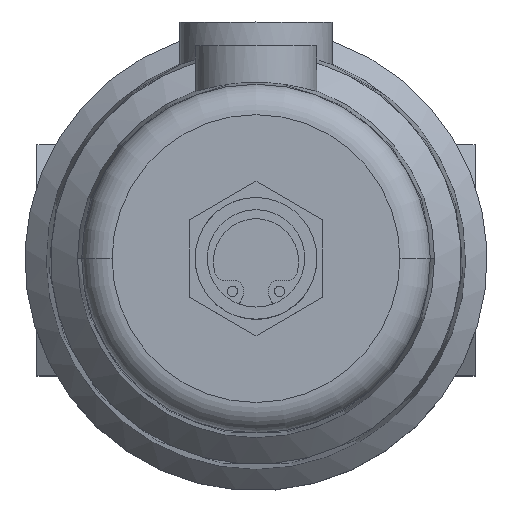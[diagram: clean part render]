
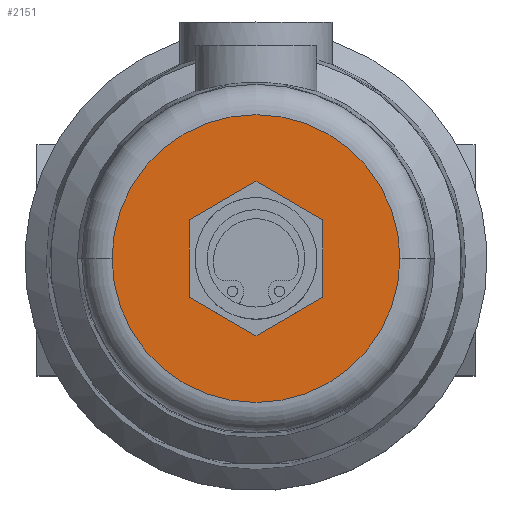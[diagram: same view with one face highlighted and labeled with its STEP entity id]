
A CAD part, top view. The second image highlights one B-rep face of the part: STEP entity #2151.
In plain terms, the highlighted planar face has unit normal (0, 0, 1).
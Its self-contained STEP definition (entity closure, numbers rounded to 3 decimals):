
#268=CARTESIAN_POINT('',(0.,0.,171.));
#269=DIRECTION('',(0.,0.,1.));
#270=DIRECTION('',(-1.,0.,0.));
#271=AXIS2_PLACEMENT_3D('',#268,#269,#270);
#273=CARTESIAN_POINT('',(0.,0.,171.));
#274=DIRECTION('',(0.,0.,1.));
#275=DIRECTION('',(1.,0.,0.));
#276=AXIS2_PLACEMENT_3D('',#273,#274,#275);
#278=DIRECTION('',(0.866,0.5,0.));
#279=VECTOR('',#278,12.702);
#280=CARTESIAN_POINT('',(0.,-12.702,171.));
#281=LINE('',#280,#279);
#282=DIRECTION('',(0.,1.,0.));
#283=VECTOR('',#282,12.702);
#284=CARTESIAN_POINT('',(11.,-6.351,171.));
#285=LINE('',#284,#283);
#286=DIRECTION('',(-0.866,0.5,0.));
#287=VECTOR('',#286,12.702);
#288=CARTESIAN_POINT('',(11.,6.351,171.));
#289=LINE('',#288,#287);
#290=DIRECTION('',(-0.866,-0.5,0.));
#291=VECTOR('',#290,12.702);
#292=CARTESIAN_POINT('',(0.,12.702,171.));
#293=LINE('',#292,#291);
#294=DIRECTION('',(0.,-1.,0.));
#295=VECTOR('',#294,12.702);
#296=CARTESIAN_POINT('',(-11.,6.351,171.));
#297=LINE('',#296,#295);
#298=DIRECTION('',(0.866,-0.5,0.));
#299=VECTOR('',#298,12.702);
#300=CARTESIAN_POINT('',(-11.,-6.351,171.));
#301=LINE('',#300,#299);
#1609=CARTESIAN_POINT('',(-23.659,0.,171.));
#1610=CARTESIAN_POINT('',(23.659,0.,171.));
#1611=VERTEX_POINT('',#1609);
#1612=VERTEX_POINT('',#1610);
#1661=CARTESIAN_POINT('',(0.,-12.702,171.));
#1662=CARTESIAN_POINT('',(11.,-6.351,171.));
#1663=VERTEX_POINT('',#1661);
#1664=VERTEX_POINT('',#1662);
#1665=CARTESIAN_POINT('',(11.,6.351,171.));
#1666=VERTEX_POINT('',#1665);
#1667=CARTESIAN_POINT('',(0.,12.702,171.));
#1668=VERTEX_POINT('',#1667);
#1669=CARTESIAN_POINT('',(-11.,6.351,171.));
#1670=VERTEX_POINT('',#1669);
#1671=CARTESIAN_POINT('',(-11.,-6.351,171.));
#1672=VERTEX_POINT('',#1671);
#2127=CARTESIAN_POINT('',(0.,0.,171.));
#2128=DIRECTION('',(0.,0.,-1.));
#2129=DIRECTION('',(1.,0.,0.));
#2130=AXIS2_PLACEMENT_3D('',#2127,#2128,#2129);
#2131=PLANE('',#2130);
#2132=ORIENTED_EDGE('',*,*,#2117,.F.);
#2134=ORIENTED_EDGE('',*,*,#2133,.F.);
#2135=EDGE_LOOP('',(#2132,#2134));
#2136=FACE_OUTER_BOUND('',#2135,.F.);
#2138=ORIENTED_EDGE('',*,*,#2137,.T.);
#2140=ORIENTED_EDGE('',*,*,#2139,.T.);
#2142=ORIENTED_EDGE('',*,*,#2141,.T.);
#2144=ORIENTED_EDGE('',*,*,#2143,.T.);
#2146=ORIENTED_EDGE('',*,*,#2145,.T.);
#2148=ORIENTED_EDGE('',*,*,#2147,.T.);
#2149=EDGE_LOOP('',(#2138,#2140,#2142,#2144,#2146,#2148));
#2150=FACE_BOUND('',#2149,.F.);
#2151=ADVANCED_FACE('',(#2136,#2150),#2131,.F.);
#272=CIRCLE('',#271,23.659);
#277=CIRCLE('',#276,23.659);
#2117=EDGE_CURVE('',#1611,#1612,#272,.T.);
#2133=EDGE_CURVE('',#1612,#1611,#277,.T.);
#2137=EDGE_CURVE('',#1663,#1664,#281,.T.);
#2139=EDGE_CURVE('',#1664,#1666,#285,.T.);
#2141=EDGE_CURVE('',#1666,#1668,#289,.T.);
#2143=EDGE_CURVE('',#1668,#1670,#293,.T.);
#2145=EDGE_CURVE('',#1670,#1672,#297,.T.);
#2147=EDGE_CURVE('',#1672,#1663,#301,.T.);
